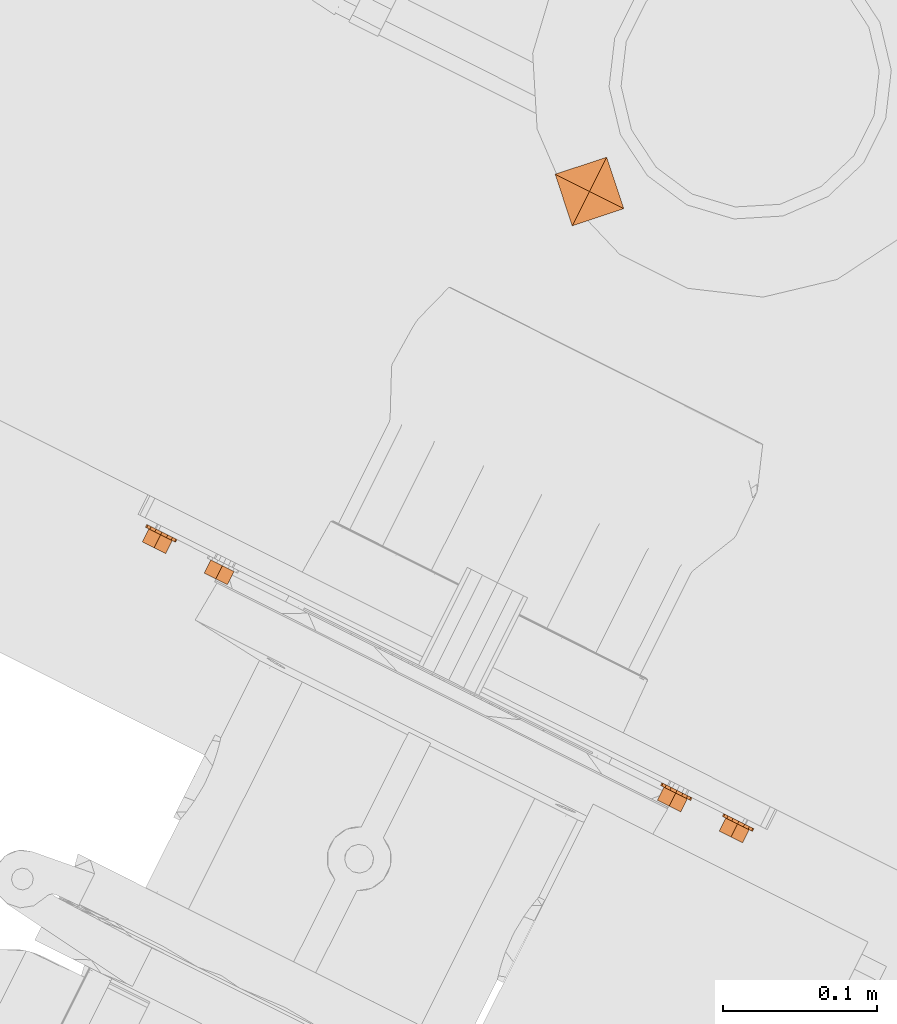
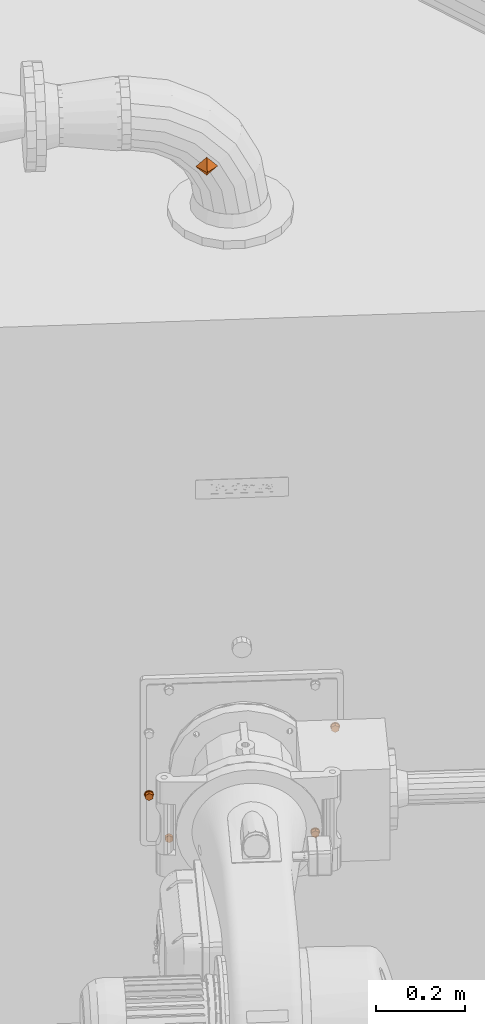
# One storey, part 204 of 206: 8 proxies.
"""IFC2X3 building model written with IfcOpenShell, lengths in metres."""

from ifc_helpers import new_model, si_unit, derived_unit, direction, frame, origin, place, context, subcontext, project, spatial, faceted_brep, source, transform, mapped, material, type_object, type_shapes, element, save


model = new_model("IFC2X3")

# Units and contexts
model_context = context("Model", 3, precision=5.2338327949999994e-05, world=origin(), true_north=direction((0.0, 1.0)))
body_context = subcontext(model_context, "Body", "Model", "MODEL_VIEW")
ifc_project = project(units=[si_unit("LENGTHUNIT", "METRE"), si_unit("AREAUNIT", "SQUARE_METRE"), si_unit("VOLUMEUNIT", "CUBIC_METRE"), si_unit("MASSUNIT", "GRAM", prefix="KILO"), si_unit("PLANEANGLEUNIT", "RADIAN"), derived_unit("THERMALTRANSMITTANCEUNIT", [(si_unit("MASSUNIT", "GRAM", prefix="KILO"), 1), (si_unit("THERMODYNAMICTEMPERATUREUNIT", "KELVIN"), -1), (si_unit("TIMEUNIT", "SECOND"), -3)])], contexts=[model_context])

# Site, building, storey
site_placement = place(None, frame((0.0, 0.0, 0.0), z_axis=(0.0, 0.0, 1.0), x_axis=(0.8939966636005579, -0.4480736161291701, 0.0)))
site = spatial("IfcSite", under=ifc_project, at=site_placement, Name="Default", CompositionType="ELEMENT")
building_placement = place(site_placement, origin())
building = spatial("IfcBuilding", under=site, at=building_placement, CompositionType="ELEMENT")
storey_placement = place(building_placement, origin())
storey = spatial("IfcBuildingStorey", under=building, at=storey_placement, Name="Erdgeschoss", CompositionType="ELEMENT", Elevation=0.0)

# Proxies
ifc_material = material(Name="IfcSurfaceStyle #631137")
building_element_proxy_type_1 = type_object("IfcBuildingElementProxyType", Name="BuildingElementProxy 98:BuildingElementProxy 98", PredefinedType="NOTDEFINED", material=ifc_material)
shared_shape_1 = source(origin(), body_context, "Body", "Brep", [
    faceted_brep([(21.64673835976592, 4.960535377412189, 0.9651626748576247), (21.650947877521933, 4.958535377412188, 0.9660000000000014), (21.650947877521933, 4.96053537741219, 0.9660000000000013), (21.655157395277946, 4.958535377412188, 0.9651626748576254), (21.655157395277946, 4.960535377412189, 0.9651626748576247), (21.65872605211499, 4.958535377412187, 0.9627781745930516), (21.658726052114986, 4.960535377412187, 0.9627781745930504), (21.661110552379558, 4.958535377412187, 0.9592095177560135), (21.661110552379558, 4.960535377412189, 0.959209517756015), (21.661947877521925, 4.958535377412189, 0.9550000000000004), (21.661947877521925, 4.960535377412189, 0.9549999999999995), (21.661110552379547, 4.958535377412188, 0.9507904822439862), (21.66111055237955, 4.96053537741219, 0.9507904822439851), (21.65872605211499, 4.958535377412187, 0.9472218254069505), (21.65872605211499, 4.960535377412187, 0.9472218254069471), (21.655157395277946, 4.958535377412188, 0.9448373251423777), (21.655157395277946, 4.960535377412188, 0.9448373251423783), (21.650947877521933, 4.958535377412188, 0.9440000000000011), (21.650947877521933, 4.960535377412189, 0.9440000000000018), (21.64673835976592, 4.958535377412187, 0.9448373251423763), (21.646738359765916, 4.960535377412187, 0.9448373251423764), (21.643169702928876, 4.958535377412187, 0.9472218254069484), (21.643169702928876, 4.960535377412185, 0.9472218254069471), (21.6407852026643, 4.958535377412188, 0.9507904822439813), (21.640785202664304, 4.96053537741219, 0.9507904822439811), (21.639947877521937, 4.958535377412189, 0.9550000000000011), (21.63994787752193, 4.960535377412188, 0.9550000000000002), (21.640785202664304, 4.958535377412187, 0.9592095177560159), (21.640785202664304, 4.960535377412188, 0.9592095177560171), (21.643169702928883, 4.958535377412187, 0.962778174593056), (21.643169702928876, 4.960535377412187, 0.9627781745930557), (21.64673835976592, 4.958535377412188, 0.9651626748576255)], [[[0, 1, 2]], [[2, 1, 3]], [[2, 3, 4]], [[4, 3, 5]], [[4, 5, 6]], [[6, 5, 7]], [[6, 7, 8]], [[8, 7, 9]], [[8, 9, 10]], [[10, 9, 11]], [[10, 11, 12]], [[12, 11, 13]], [[12, 13, 14]], [[14, 13, 15]], [[14, 15, 16]], [[16, 15, 17]], [[16, 17, 18]], [[18, 17, 19]], [[18, 19, 20]], [[20, 19, 21]], [[20, 21, 22]], [[22, 21, 23]], [[22, 23, 24]], [[24, 23, 25]], [[24, 25, 26]], [[26, 25, 27]], [[26, 27, 28]], [[28, 27, 29]], [[28, 29, 30]], [[30, 29, 31]], [[30, 31, 0]], [[0, 31, 1]], [[1, 31, 3]], [[3, 31, 5]], [[31, 29, 5]], [[5, 29, 7]], [[29, 27, 7]], [[7, 27, 9]], [[27, 25, 9]], [[9, 25, 11]], [[25, 23, 11]], [[11, 23, 13]], [[23, 21, 13]], [[13, 21, 15]], [[21, 19, 15]], [[15, 19, 17]], [[2, 4, 0]], [[0, 4, 30]], [[4, 6, 30]], [[30, 6, 28]], [[6, 8, 28]], [[28, 8, 26]], [[8, 10, 26]], [[26, 10, 24]], [[10, 12, 24]], [[24, 12, 22]], [[12, 14, 22]], [[22, 14, 20]], [[14, 16, 20]], [[20, 16, 18]]]),
])
type_shapes(building_element_proxy_type_1, [shared_shape_1])
proxy_1_placement = place(storey_placement, origin())
element("IfcBuildingElementProxy", 1, at=proxy_1_placement, inside=storey, type_object=building_element_proxy_type_1, material=ifc_material, Name="BuildingElementProxy 98", context=body_context, shape_type="MappedRepresentation", body=[
    mapped(shared_shape_1, transform((0.0, 0.0, 0.0), scale=1.0)),
])
building_element_proxy_type_2 = type_object("IfcBuildingElementProxyType", Name="BuildingElementProxy 106:BuildingElementProxy 106", PredefinedType="NOTDEFINED", material=ifc_material)
shared_shape_2 = source(origin(), body_context, "Body", "Brep", [
    faceted_brep([(21.23944787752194, 4.949035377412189, 0.7899074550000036), (21.235197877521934, 4.949035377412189, 0.7923612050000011), (21.23944787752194, 4.949035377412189, 0.7849999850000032), (21.235197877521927, 4.949035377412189, 0.7776387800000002), (21.23944787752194, 4.949035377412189, 0.7800925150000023), (21.23094787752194, 4.949035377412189, 0.7948149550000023), (21.22669787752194, 4.949035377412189, 0.7923612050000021), (21.226697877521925, 4.949035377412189, 0.7776387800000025), (21.23094787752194, 4.949035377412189, 0.7751850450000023), (21.23944787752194, 4.958535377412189, 0.7800925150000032), (21.235197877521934, 4.958535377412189, 0.7776387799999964), (21.23094787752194, 4.958535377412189, 0.7751850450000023), (21.239447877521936, 4.958535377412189, 0.7899074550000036), (21.239447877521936, 4.958535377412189, 0.7849999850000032), (21.23094787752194, 4.958535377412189, 0.7948149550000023), (21.235197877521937, 4.958535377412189, 0.7923612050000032), (21.222447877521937, 4.958535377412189, 0.7899074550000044), (21.222447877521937, 4.949035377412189, 0.7899074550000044), (21.226697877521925, 4.958535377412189, 0.7923612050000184), (21.226697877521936, 4.958535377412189, 0.7776387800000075), (21.22244787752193, 4.958535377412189, 0.7800925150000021), (21.22244787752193, 4.949035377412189, 0.7800925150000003), (21.22244787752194, 4.949035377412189, 0.7849999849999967), (21.222447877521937, 4.958535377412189, 0.7849999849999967)], [[[0, 1, 2]], [[2, 1, 3]], [[2, 3, 4]], [[5, 6, 1]], [[1, 6, 7]], [[1, 7, 3]], [[3, 7, 8]], [[9, 4, 10]], [[10, 4, 3]], [[10, 3, 11]], [[11, 3, 8]], [[12, 0, 13]], [[13, 0, 2]], [[13, 2, 9]], [[9, 2, 4]], [[14, 5, 15]], [[15, 5, 1]], [[15, 1, 12]], [[12, 1, 0]], [[16, 17, 18]], [[18, 17, 6]], [[18, 6, 14]], [[14, 6, 5]], [[11, 8, 19]], [[19, 8, 7]], [[19, 7, 20]], [[20, 7, 21]], [[19, 18, 15]], [[15, 18, 14]], [[12, 13, 15]], [[15, 13, 10]], [[15, 10, 19]], [[19, 10, 11]], [[13, 9, 10]], [[17, 22, 6]], [[6, 22, 7]], [[22, 21, 7]], [[20, 21, 23]], [[23, 21, 22]], [[23, 22, 16]], [[16, 22, 17]], [[20, 23, 19]], [[19, 23, 18]], [[23, 16, 18]]]),
])
type_shapes(building_element_proxy_type_2, [shared_shape_2])
proxy_2_placement = place(storey_placement, origin())
element("IfcBuildingElementProxy", 2, at=proxy_2_placement, inside=storey, type_object=building_element_proxy_type_2, material=ifc_material, Name="BuildingElementProxy 106", context=body_context, shape_type="MappedRepresentation", body=[
    mapped(shared_shape_2, transform((0.0, 0.0, 0.0), scale=1.0)),
])
building_element_proxy_type_3 = type_object("IfcBuildingElementProxyType", Name="BuildingElementProxy 107:BuildingElementProxy 107", PredefinedType="NOTDEFINED", material=ifc_material)
shared_shape_3 = source(origin(), body_context, "Body", "Brep", [
    faceted_brep([(21.650947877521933, 4.949035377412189, 0.9648149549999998), (21.646697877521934, 4.949035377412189, 0.9623612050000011), (21.655197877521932, 4.949035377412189, 0.9623612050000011), (21.655197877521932, 4.949035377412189, 0.9476387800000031), (21.65944787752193, 4.949035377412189, 0.9549999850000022), (21.65944787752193, 4.949035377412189, 0.9500925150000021), (21.64244787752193, 4.949035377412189, 0.9599074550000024), (21.64244787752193, 4.949035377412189, 0.9549999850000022), (21.646697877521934, 4.949035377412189, 0.9476387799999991), (21.650947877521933, 4.949035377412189, 0.9451850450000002), (21.64244787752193, 4.949035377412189, 0.9500925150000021), (21.65944787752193, 4.949035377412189, 0.9599074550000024), (21.64244787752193, 4.958535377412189, 0.9500925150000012), (21.646697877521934, 4.958535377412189, 0.9476387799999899), (21.650947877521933, 4.958535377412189, 0.9451850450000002), (21.64244787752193, 4.958535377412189, 0.9599074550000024), (21.64244787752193, 4.958535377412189, 0.9549999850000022), (21.650947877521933, 4.958535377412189, 0.9648149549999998), (21.646697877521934, 4.958535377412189, 0.9623612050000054), (21.65944787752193, 4.958535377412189, 0.9599074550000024), (21.655197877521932, 4.958535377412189, 0.9623612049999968), (21.659447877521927, 4.958535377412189, 0.9500925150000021), (21.659447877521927, 4.958535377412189, 0.9549999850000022), (21.655197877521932, 4.958535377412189, 0.9476387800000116)], [[[0, 1, 2]], [[2, 1, 3]], [[2, 3, 4]], [[4, 3, 5]], [[6, 7, 1]], [[1, 7, 8]], [[1, 8, 3]], [[3, 8, 9]], [[7, 10, 8]], [[4, 11, 2]], [[10, 12, 8]], [[8, 12, 13]], [[8, 13, 9]], [[9, 13, 14]], [[6, 15, 7]], [[7, 15, 16]], [[7, 16, 10]], [[10, 16, 12]], [[0, 17, 1]], [[1, 17, 18]], [[1, 18, 6]], [[6, 18, 15]], [[11, 19, 2]], [[2, 19, 20]], [[2, 20, 0]], [[0, 20, 17]], [[5, 21, 4]], [[4, 21, 22]], [[4, 22, 11]], [[11, 22, 19]], [[9, 14, 3]], [[3, 14, 23]], [[3, 23, 5]], [[5, 23, 21]], [[19, 22, 20]], [[20, 22, 23]], [[20, 23, 18]], [[18, 23, 13]], [[18, 13, 16]], [[16, 13, 12]], [[22, 21, 23]], [[23, 14, 13]], [[16, 15, 18]], [[18, 17, 20]]]),
])
type_shapes(building_element_proxy_type_3, [shared_shape_3])
proxy_3_placement = place(storey_placement, origin())
element("IfcBuildingElementProxy", 3, at=proxy_3_placement, inside=storey, type_object=building_element_proxy_type_3, material=ifc_material, Name="BuildingElementProxy 107", context=body_context, shape_type="MappedRepresentation", body=[
    mapped(shared_shape_3, transform((0.0, 0.0, 0.0), scale=1.0)),
])
building_element_proxy_type_4 = type_object("IfcBuildingElementProxyType", Name="BuildingElementProxy 109:BuildingElementProxy 109", PredefinedType="NOTDEFINED", material=ifc_material)
shared_shape_4 = source(origin(), body_context, "Body", "Brep", [
    faceted_brep([(21.226738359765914, 4.960535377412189, 0.7951626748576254), (21.230947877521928, 4.958535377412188, 0.796000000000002), (21.230947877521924, 4.96053537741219, 0.7960000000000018), (21.235157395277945, 4.958535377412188, 0.7951626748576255), (21.235157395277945, 4.960535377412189, 0.795162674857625), (21.238726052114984, 4.958535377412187, 0.7927781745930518), (21.23872605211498, 4.960535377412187, 0.7927781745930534), (21.241110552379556, 4.958535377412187, 0.7892095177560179), (21.241110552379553, 4.960535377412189, 0.789209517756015), (21.241947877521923, 4.958535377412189, 0.7850000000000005), (21.241947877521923, 4.960535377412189, 0.7849999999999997), (21.24111055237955, 4.958535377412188, 0.7807904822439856), (21.241110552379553, 4.96053537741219, 0.7807904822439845), (21.238726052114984, 4.958535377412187, 0.7772218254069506), (21.238726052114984, 4.960535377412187, 0.7772218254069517), (21.235157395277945, 4.958535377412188, 0.7748373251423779), (21.235157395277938, 4.960535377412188, 0.7748373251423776), (21.230947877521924, 4.958535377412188, 0.7740000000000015), (21.230947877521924, 4.960535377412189, 0.7740000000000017), (21.226738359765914, 4.958535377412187, 0.774837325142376), (21.22673835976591, 4.960535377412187, 0.7748373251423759), (21.223169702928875, 4.958535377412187, 0.7772218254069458), (21.223169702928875, 4.960535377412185, 0.7772218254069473), (21.2207852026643, 4.958535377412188, 0.7807904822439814), (21.220785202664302, 4.96053537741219, 0.7807904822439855), (21.219947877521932, 4.958535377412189, 0.7850000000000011), (21.219947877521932, 4.960535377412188, 0.7850000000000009), (21.2207852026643, 4.958535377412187, 0.7892095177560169), (21.220785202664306, 4.960535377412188, 0.7892095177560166), (21.223169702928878, 4.958535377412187, 0.7927781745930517), (21.223169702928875, 4.960535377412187, 0.7927781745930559), (21.226738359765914, 4.958535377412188, 0.7951626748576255)], [[[0, 1, 2]], [[2, 1, 3]], [[2, 3, 4]], [[4, 3, 5]], [[4, 5, 6]], [[6, 5, 7]], [[6, 7, 8]], [[8, 7, 9]], [[8, 9, 10]], [[10, 9, 11]], [[10, 11, 12]], [[12, 11, 13]], [[12, 13, 14]], [[14, 13, 15]], [[14, 15, 16]], [[16, 15, 17]], [[16, 17, 18]], [[18, 17, 19]], [[18, 19, 20]], [[20, 19, 21]], [[20, 21, 22]], [[22, 21, 23]], [[22, 23, 24]], [[24, 23, 25]], [[24, 25, 26]], [[26, 25, 27]], [[26, 27, 28]], [[28, 27, 29]], [[28, 29, 30]], [[30, 29, 31]], [[30, 31, 0]], [[0, 31, 1]], [[1, 31, 3]], [[3, 31, 5]], [[31, 29, 5]], [[5, 29, 7]], [[29, 27, 7]], [[7, 27, 9]], [[27, 25, 9]], [[9, 25, 11]], [[25, 23, 11]], [[11, 23, 13]], [[23, 21, 13]], [[13, 21, 15]], [[21, 19, 15]], [[15, 19, 17]], [[2, 4, 0]], [[0, 4, 30]], [[4, 6, 30]], [[30, 6, 28]], [[6, 8, 28]], [[28, 8, 26]], [[8, 10, 26]], [[26, 10, 24]], [[10, 12, 24]], [[24, 12, 22]], [[12, 14, 22]], [[22, 14, 20]], [[14, 16, 20]], [[20, 16, 18]]]),
])
type_shapes(building_element_proxy_type_4, [shared_shape_4])
proxy_4_placement = place(storey_placement, origin())
element("IfcBuildingElementProxy", 4, at=proxy_4_placement, inside=storey, type_object=building_element_proxy_type_4, material=ifc_material, Name="BuildingElementProxy 109", context=body_context, shape_type="MappedRepresentation", body=[
    mapped(shared_shape_4, transform((0.0, 0.0, 0.0), scale=1.0)),
])
building_element_proxy_type_5 = type_object("IfcBuildingElementProxyType", Name="BuildingElementProxy 114:BuildingElementProxy 114", PredefinedType="NOTDEFINED", material=ifc_material)
shared_shape_5 = source(origin(), body_context, "Body", "Brep", [
    faceted_brep([(21.28444787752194, 4.949035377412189, 0.6720812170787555), (21.280197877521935, 4.949035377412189, 0.6745349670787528), (21.28444787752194, 4.949035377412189, 0.6671737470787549), (21.280197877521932, 4.949035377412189, 0.6598125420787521), (21.284447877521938, 4.949035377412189, 0.6622662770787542), (21.27594787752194, 4.949035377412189, 0.6769887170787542), (21.27169787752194, 4.949035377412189, 0.6745349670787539), (21.271697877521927, 4.949035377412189, 0.6598125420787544), (21.27594787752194, 4.949035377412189, 0.6573588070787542), (21.26744787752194, 4.949035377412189, 0.6720812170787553), (21.26744787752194, 4.949035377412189, 0.6671737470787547), (21.267447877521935, 4.949035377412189, 0.6622662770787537), (21.284447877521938, 4.958535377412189, 0.6622662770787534), (21.280197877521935, 4.958535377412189, 0.6598125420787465), (21.27594787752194, 4.958535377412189, 0.657358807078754), (21.28444787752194, 4.958535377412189, 0.6720812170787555), (21.28444787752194, 4.958535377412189, 0.6671737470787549), (21.27594787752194, 4.958535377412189, 0.6769887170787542), (21.28019787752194, 4.958535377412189, 0.674534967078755), (21.26744787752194, 4.958535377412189, 0.6720812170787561), (21.271697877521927, 4.958535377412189, 0.6745349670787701), (21.267447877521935, 4.958535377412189, 0.6622662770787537), (21.26744787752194, 4.958535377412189, 0.6671737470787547), (21.271697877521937, 4.958535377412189, 0.6598125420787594)], [[[0, 1, 2]], [[2, 1, 3]], [[2, 3, 4]], [[5, 6, 1]], [[1, 6, 7]], [[1, 7, 3]], [[3, 7, 8]], [[9, 10, 6]], [[6, 10, 7]], [[10, 11, 7]], [[12, 4, 13]], [[13, 4, 3]], [[13, 3, 14]], [[14, 3, 8]], [[15, 0, 16]], [[16, 0, 2]], [[16, 2, 12]], [[12, 2, 4]], [[17, 5, 18]], [[18, 5, 1]], [[18, 1, 15]], [[15, 1, 0]], [[19, 9, 20]], [[20, 9, 6]], [[20, 6, 17]], [[17, 6, 5]], [[21, 11, 22]], [[22, 11, 10]], [[22, 10, 19]], [[19, 10, 9]], [[14, 8, 23]], [[23, 8, 7]], [[23, 7, 21]], [[21, 7, 11]], [[21, 22, 23]], [[23, 22, 20]], [[23, 20, 18]], [[18, 20, 17]], [[22, 19, 20]], [[15, 16, 18]], [[18, 16, 13]], [[18, 13, 23]], [[23, 13, 14]], [[16, 12, 13]]]),
])
type_shapes(building_element_proxy_type_5, [shared_shape_5])
proxy_5_placement = place(storey_placement, origin())
element("IfcBuildingElementProxy", 5, at=proxy_5_placement, inside=storey, type_object=building_element_proxy_type_5, material=ifc_material, Name="BuildingElementProxy 114", context=body_context, shape_type="MappedRepresentation", body=[
    mapped(shared_shape_5, transform((0.0, 0.0, 0.0), scale=1.0)),
])
building_element_proxy_type_6 = type_object("IfcBuildingElementProxyType", Name="BuildingElementProxy 118:BuildingElementProxy 118", PredefinedType="NOTDEFINED", material=ifc_material)
shared_shape_6 = source(origin(), body_context, "Body", "Brep", [
    faceted_brep([(21.60594787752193, 4.949035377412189, 0.6769887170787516), (21.601697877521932, 4.949035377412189, 0.6745349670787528), (21.61019787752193, 4.949035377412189, 0.6745349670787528), (21.610197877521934, 4.949035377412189, 0.659812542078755), (21.614447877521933, 4.949035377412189, 0.667173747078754), (21.614447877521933, 4.949035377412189, 0.6622662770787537), (21.59744787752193, 4.949035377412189, 0.6720812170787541), (21.59744787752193, 4.949035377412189, 0.667173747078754), (21.601697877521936, 4.949035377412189, 0.6598125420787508), (21.60594787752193, 4.949035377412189, 0.6573588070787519), (21.59744787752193, 4.949035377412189, 0.6622662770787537), (21.614447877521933, 4.949035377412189, 0.6720812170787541), (21.59744787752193, 4.958535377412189, 0.6622662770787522), (21.601697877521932, 4.958535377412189, 0.6598125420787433), (21.60594787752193, 4.958535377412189, 0.6573588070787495), (21.597447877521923, 4.958535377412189, 0.6720812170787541), (21.597447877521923, 4.958535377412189, 0.667173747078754), (21.60594787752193, 4.958535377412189, 0.6769887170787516), (21.601697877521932, 4.958535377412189, 0.6745349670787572), (21.614447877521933, 4.958535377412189, 0.6720812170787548), (21.61019787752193, 4.958535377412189, 0.6745349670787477), (21.614447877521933, 4.958535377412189, 0.6622662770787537), (21.614447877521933, 4.958535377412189, 0.667173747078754), (21.61019787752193, 4.958535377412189, 0.6598125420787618)], [[[0, 1, 2]], [[2, 1, 3]], [[2, 3, 4]], [[4, 3, 5]], [[6, 7, 1]], [[1, 7, 8]], [[1, 8, 3]], [[3, 8, 9]], [[7, 10, 8]], [[4, 11, 2]], [[10, 12, 8]], [[8, 12, 13]], [[8, 13, 9]], [[9, 13, 14]], [[6, 15, 7]], [[7, 15, 16]], [[7, 16, 10]], [[10, 16, 12]], [[0, 17, 1]], [[1, 17, 18]], [[1, 18, 6]], [[6, 18, 15]], [[11, 19, 2]], [[2, 19, 20]], [[2, 20, 0]], [[0, 20, 17]], [[5, 21, 4]], [[4, 21, 22]], [[4, 22, 11]], [[11, 22, 19]], [[9, 14, 3]], [[3, 14, 23]], [[3, 23, 5]], [[5, 23, 21]], [[19, 22, 20]], [[20, 22, 23]], [[20, 23, 18]], [[18, 23, 13]], [[18, 13, 16]], [[16, 13, 12]], [[22, 21, 23]], [[23, 14, 13]], [[16, 15, 18]], [[18, 17, 20]]]),
])
type_shapes(building_element_proxy_type_6, [shared_shape_6])
proxy_6_placement = place(storey_placement, origin())
element("IfcBuildingElementProxy", 6, at=proxy_6_placement, inside=storey, type_object=building_element_proxy_type_6, material=ifc_material, Name="BuildingElementProxy 118", context=body_context, shape_type="MappedRepresentation", body=[
    mapped(shared_shape_6, transform((0.0, 0.0, 0.0), scale=1.0)),
])
building_element_proxy_type_7 = type_object("IfcBuildingElementProxyType", Name="BuildingElementProxy 125:BuildingElementProxy 125", PredefinedType="NOTDEFINED", material=ifc_material)
shared_shape_7 = source(origin(), body_context, "Body", "Brep", [
    faceted_brep([(21.60173835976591, 4.960535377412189, 0.6773364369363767), (21.60594787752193, 4.958535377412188, 0.6781737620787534), (21.605947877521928, 4.96053537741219, 0.678173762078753), (21.610157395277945, 4.958535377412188, 0.6773364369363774), (21.610157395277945, 4.960535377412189, 0.6773364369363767), (21.61372605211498, 4.958535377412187, 0.6749519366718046), (21.61372605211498, 4.960535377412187, 0.6749519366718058), (21.616110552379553, 4.958535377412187, 0.6713832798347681), (21.616110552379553, 4.960535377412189, 0.671383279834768), (21.61694787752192, 4.958535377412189, 0.6671737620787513), (21.616947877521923, 4.960535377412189, 0.6671737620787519), (21.616110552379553, 4.958535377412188, 0.6629642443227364), (21.616110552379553, 4.96053537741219, 0.6629642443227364), (21.613726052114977, 4.958535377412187, 0.6593955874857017), (21.61372605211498, 4.960535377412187, 0.6593955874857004), (21.610157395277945, 4.958535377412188, 0.6570110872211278), (21.61015739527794, 4.960535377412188, 0.6570110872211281), (21.605947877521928, 4.958535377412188, 0.6561737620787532), (21.605947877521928, 4.960535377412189, 0.6561737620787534), (21.60173835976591, 4.958535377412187, 0.657011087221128), (21.601738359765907, 4.960535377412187, 0.6570110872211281), (21.598169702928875, 4.958535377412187, 0.6593955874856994), (21.598169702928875, 4.960535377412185, 0.6593955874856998), (21.5957852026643, 4.958535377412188, 0.6629642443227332), (21.595785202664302, 4.96053537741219, 0.6629642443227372), (21.594947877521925, 4.958535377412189, 0.6671737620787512), (21.59494787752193, 4.960535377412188, 0.6671737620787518), (21.595785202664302, 4.958535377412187, 0.6713832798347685), (21.595785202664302, 4.960535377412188, 0.6713832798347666), (21.598169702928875, 4.958535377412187, 0.6749519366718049), (21.598169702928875, 4.960535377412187, 0.6749519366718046), (21.60173835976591, 4.958535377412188, 0.6773364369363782)], [[[0, 1, 2]], [[2, 1, 3]], [[2, 3, 4]], [[4, 3, 5]], [[4, 5, 6]], [[6, 5, 7]], [[6, 7, 8]], [[8, 7, 9]], [[8, 9, 10]], [[10, 9, 11]], [[10, 11, 12]], [[12, 11, 13]], [[12, 13, 14]], [[14, 13, 15]], [[14, 15, 16]], [[16, 15, 17]], [[16, 17, 18]], [[18, 17, 19]], [[18, 19, 20]], [[20, 19, 21]], [[20, 21, 22]], [[22, 21, 23]], [[22, 23, 24]], [[24, 23, 25]], [[24, 25, 26]], [[26, 25, 27]], [[26, 27, 28]], [[28, 27, 29]], [[28, 29, 30]], [[30, 29, 31]], [[30, 31, 0]], [[0, 31, 1]], [[1, 31, 3]], [[3, 31, 5]], [[31, 29, 5]], [[5, 29, 7]], [[29, 27, 7]], [[7, 27, 9]], [[27, 25, 9]], [[9, 25, 11]], [[25, 23, 11]], [[11, 23, 13]], [[23, 21, 13]], [[13, 21, 15]], [[21, 19, 15]], [[15, 19, 17]], [[2, 4, 0]], [[0, 4, 30]], [[4, 6, 30]], [[30, 6, 28]], [[6, 8, 28]], [[28, 8, 26]], [[8, 10, 26]], [[26, 10, 24]], [[10, 12, 24]], [[24, 12, 22]], [[12, 14, 22]], [[22, 14, 20]], [[14, 16, 20]], [[20, 16, 18]]]),
])
type_shapes(building_element_proxy_type_7, [shared_shape_7])
proxy_7_placement = place(storey_placement, origin())
element("IfcBuildingElementProxy", 7, at=proxy_7_placement, inside=storey, type_object=building_element_proxy_type_7, material=ifc_material, Name="BuildingElementProxy 125", context=body_context, shape_type="MappedRepresentation", body=[
    mapped(shared_shape_7, transform((0.0, 0.0, 0.0), scale=1.0)),
])
building_element_proxy_type_8 = type_object("IfcBuildingElementProxyType", Name="DirectShape:Gebäudeautomation", PredefinedType="NOTDEFINED")
proxy_8_placement = place(storey_placement, origin())
element("IfcBuildingElementProxy", 8, at=proxy_8_placement, inside=storey, type_object=building_element_proxy_type_8, Name="DirectShape:Heizkessel 1 Rücklauffühler", context=body_context, shape_type="Brep", body=[
    faceted_brep([(21.38038798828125, 5.28336297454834, 2.254701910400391), (21.355387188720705, 5.28336297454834, 2.279702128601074), (21.38038798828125, 5.30836261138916, 2.279702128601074), (21.38038798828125, 5.2583627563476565, 2.279702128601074), (21.405388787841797, 5.28336297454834, 2.279702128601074), (21.38038798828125, 5.28336297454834, 2.304702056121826)], [[[0, 1, 2]], [[0, 3, 1]], [[0, 4, 3]], [[0, 2, 4]], [[5, 2, 1]], [[5, 1, 3]], [[5, 3, 4]], [[5, 4, 2]]]),
])

save(model, "model.ifc")
